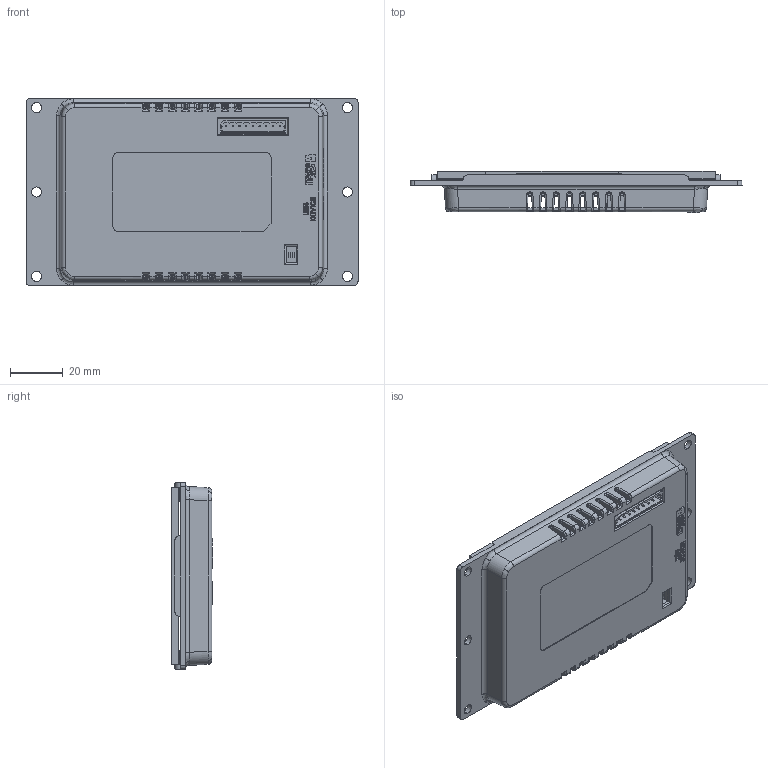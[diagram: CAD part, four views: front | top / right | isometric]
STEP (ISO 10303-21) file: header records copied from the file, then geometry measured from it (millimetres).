
FILE_DESCRIPTION (( 'STEP AP214' ), '1' );
FILE_NAME ('MDP043N_ASM_衙景橡辨.STEP', '2016-05-11T02:21:59', ( 'Registered User' ), ( 'Microsoft Corporation' ), 'SwSTEP 2.0', 'SolidWorks 2014', '' );
FILE_SCHEMA (( 'AUTOMOTIVE_DESIGN' ));
Length unit declared in the file: millimetre
Products named in the file (1): MDP043N_ASM_衙景橡辨
Bounding box: 126 x 15.6 x 71 mm (x, y, z)
Surface area: 37493.3 mm2 (no closed solid volume)
Topology: 0 solids, 19 shells, 752 faces, 2367 edges, 1596 vertices
Faces by surface type: plane 370, cylinder 232, bspline 124, cone 20, torus 6
Entity records: 37929 total; most frequent: CARTESIAN_POINT 10229, ORIENTED_EDGE 4118, DIRECTION 3581, EDGE_CURVE 2367, VECTOR 1609, LINE 1609, VERTEX_POINT 1596, AXIS2_PLACEMENT_3D 986
